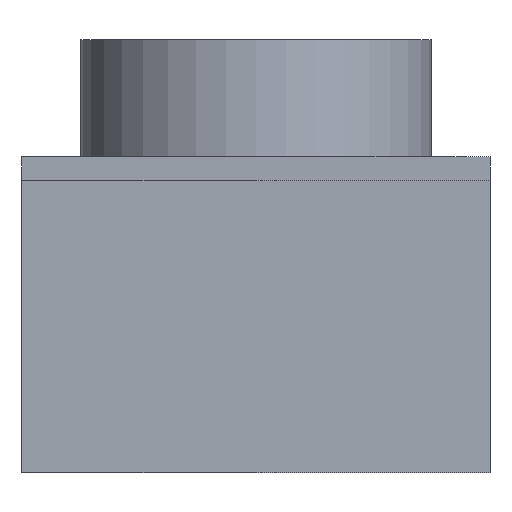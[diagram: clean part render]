
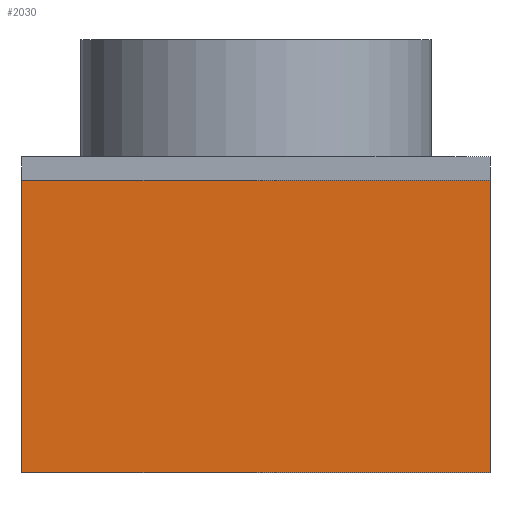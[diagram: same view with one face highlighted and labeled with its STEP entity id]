
A CAD part, left-side view. The second image highlights one B-rep face of the part: STEP entity #2030.
In plain terms, the highlighted planar face has unit normal (-1, 0, 0).
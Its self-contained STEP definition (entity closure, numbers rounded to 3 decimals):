
#79=LINE('',#2919,#271);
#80=LINE('',#2921,#272);
#81=LINE('',#2923,#273);
#82=LINE('',#2924,#274);
#271=VECTOR('',#2375,10.);
#272=VECTOR('',#2376,10.);
#273=VECTOR('',#2377,10.);
#274=VECTOR('',#2378,10.);
#467=PLANE('',#2176);
#620=FACE_OUTER_BOUND('',#753,.T.);
#753=EDGE_LOOP('',(#1455,#1456,#1457,#1458));
#971=VERTEX_POINT('',#2917);
#972=VERTEX_POINT('',#2918);
#973=VERTEX_POINT('',#2920);
#974=VERTEX_POINT('',#2922);
#1169=EDGE_CURVE('',#971,#972,#79,.T.);
#1170=EDGE_CURVE('',#972,#973,#80,.T.);
#1171=EDGE_CURVE('',#974,#973,#81,.T.);
#1172=EDGE_CURVE('',#971,#974,#82,.T.);
#1455=ORIENTED_EDGE('',*,*,#1169,.T.);
#1456=ORIENTED_EDGE('',*,*,#1170,.T.);
#1457=ORIENTED_EDGE('',*,*,#1171,.F.);
#1458=ORIENTED_EDGE('',*,*,#1172,.F.);
#2030=ADVANCED_FACE('',(#620),#467,.T.);
#2176=AXIS2_PLACEMENT_3D('',#2916,#2373,#2374);
#2373=DIRECTION('center_axis',(-1.,0.,0.));
#2374=DIRECTION('ref_axis',(0.,-1.,0.));
#2375=DIRECTION('',(0.,-1.,0.));
#2376=DIRECTION('',(0.,0.,1.));
#2377=DIRECTION('',(0.,-1.,0.));
#2378=DIRECTION('',(0.,0.,1.));
#2916=CARTESIAN_POINT('Origin',(0.,40.,0.));
#2917=CARTESIAN_POINT('',(0.,40.,0.));
#2918=CARTESIAN_POINT('',(0.,0.,0.));
#2919=CARTESIAN_POINT('',(0.,40.,0.));
#2920=CARTESIAN_POINT('',(0.,0.,25.));
#2921=CARTESIAN_POINT('',(0.,0.,0.));
#2922=CARTESIAN_POINT('',(0.,40.,25.));
#2923=CARTESIAN_POINT('',(0.,40.,25.));
#2924=CARTESIAN_POINT('',(0.,40.,0.));
